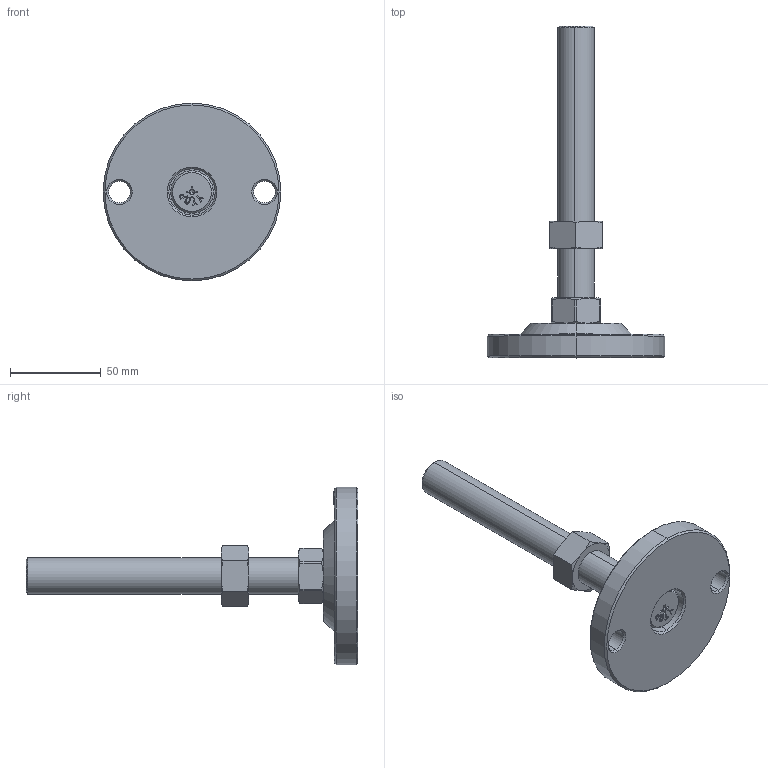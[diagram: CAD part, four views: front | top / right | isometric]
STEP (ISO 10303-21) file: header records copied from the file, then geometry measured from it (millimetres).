
FILE_DESCRIPTION (( 'STEP AP203' ), '1' );
FILE_NAME ('KL-100-20150-P.STEP', '2020-09-10T02:31:56', ( '' ), ( '' ), 'SwSTEP 2.0', 'SolidWorks 2016', '' );
FILE_SCHEMA (( 'CONFIG_CONTROL_DESIGN' ));
Length unit declared in the file: millimetre
Products named in the file (5): 眻芛蹟邡M20炵蹈_M20X150; KL-100-20150-P; KL-100-0.1 KL100菁釱; 螺丝平底十字带商标M10系列_M10X14; 脚垫调节六角螺母M20
Assembly tree (4 placements, depth 2):
  KL-100-20150-P
    KL-100-0.1 KL100菁釱
    眻芛蹟邡M20炵蹈_M20X150
    脚垫调节六角螺母M20
    螺丝平底十字带商标M10系列_M10X14
Bounding box: 98 x 183 x 98 mm (x, y, z)
Volume: 169205.1 mm3; surface area: 37725.7 mm2
Topology: 4 solids, 4 shells, 211 faces, 514 edges, 326 vertices
Faces by surface type: plane 101, cone 54, cylinder 32, bspline 24
Entity records: 8435 total; most frequent: CARTESIAN_POINT 3158, ORIENTED_EDGE 1020, DIRECTION 902, EDGE_CURVE 510, VERTEX_POINT 326, AXIS2_PLACEMENT_3D 306, LINE 290, VECTOR 290
